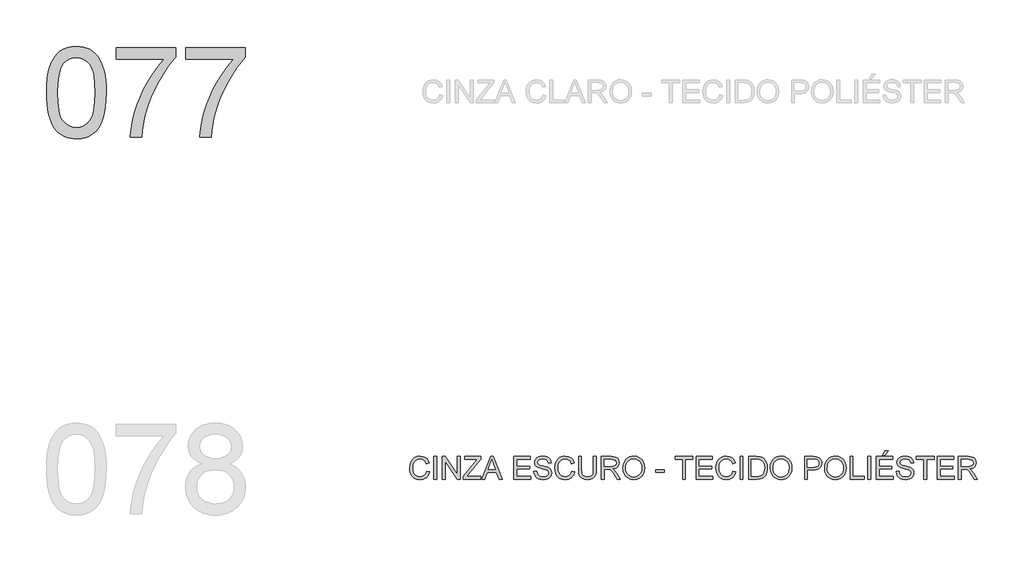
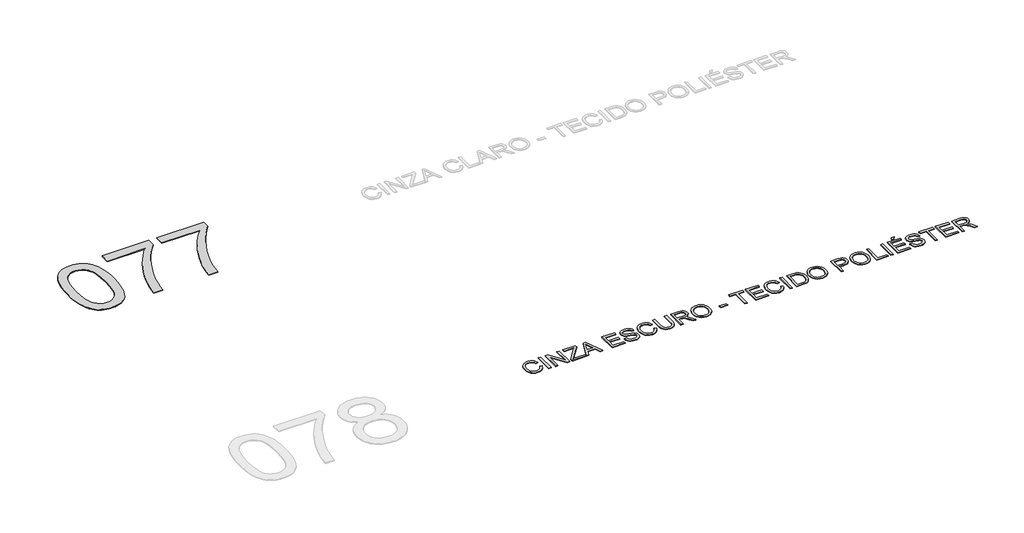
# One storey, part 5 of 67: 2 proxies.
"""IFC4 building model written with IfcOpenShell, lengths in millimetres."""

from ifc_helpers import new_model, si_unit, origin, origin_with_axes, place, context, project, spatial, polyline, outline, extrude, element, save

model = new_model("IFC4")

# Units and contexts
model_context = context("Model", 3, world=origin())
ifc_project = project(units=[si_unit("LENGTHUNIT", "METRE", prefix="MILLI")], contexts=[model_context])

# Site, building, storey
site = spatial("IfcSite", under=ifc_project)
building = spatial("IfcBuilding", under=site)
storey = spatial("IfcBuildingStorey", under=building, Name="Marelli - Linha COLAB - Planta Baixa", Elevation=0.0)

# Proxies
placement = place(None, origin())
element("IfcBuildingElementProxy", 1, Name="1200mm Arial", ObjectType="1200mm Arial", at=placement, inside=storey, context=model_context, shape_type="SweptSolid", body=[
    extrude(outline(polyline([(-25181.1313792, -99895.792664), (-25178.3630672, -99794.4319773), (-25170.0581311, -99702.8385576), (-25156.2165711, -99621.0124048), (-25136.838387, -99548.953519), (-25112.0063523, -99486.073289), (-25081.8032405, -99431.7831035), (-25046.2290516, -99386.0829627), (-25005.2837855, -99348.9728664), (-24958.8294866, -99320.2596767), (-24906.728199, -99299.7502555), (-24848.9799228, -99287.4446027), (-24785.584658, -99283.3427185), (-24737.9439396, -99285.7707396), (-24692.7312424, -99293.0548031), (-24649.9465664, -99305.194909), (-24609.5899115, -99322.1910572), (-24572.6361651, -99343.7581391), (-24540.0602144, -99369.6110463), (-24511.8620595, -99399.7497788), (-24488.0417003, -99434.1743365), (-24467.4035204, -99472.7467637), (-24448.7519032, -99515.3291046), (-24417.4083572, -99612.5235278), (-24405.4337983, -99669.6831928), (-24396.8805419, -99735.9479371), (-24391.7485881, -99811.3177609), (-24390.0379368, -99895.792664), (-24392.7786576, -99996.5095573), (-24401.0008202, -100087.6431245), (-24414.7044246, -100169.1933658), (-24433.8894706, -100241.1602811), (-24458.5283672, -100304.0681023), (-24488.5935233, -100358.4410612), (-24524.0849388, -100404.2791578), (-24565.0026137, -100441.5823921), (-24611.5120949, -100470.4887199), (-24663.7789294, -100491.1360968), (-24721.8031171, -100503.524523), (-24785.584658, -100507.6539984), (-24828.2589694, -100505.8605737), (-24868.5788361, -100500.4802995), (-24906.544258, -100491.5131759), (-24942.1552351, -100478.9592028), (-24975.4117675, -100462.8183803), (-25006.3138551, -100443.0907083), (-25034.8614979, -100419.7761868), (-25061.054696, -100392.8748159), (-25089.1976686, -100350.2786794), (-25113.5882449, -100302.0999336), (-25134.2264248, -100248.3385785), (-25151.1122084, -100188.9946142), (-25164.2455956, -100124.0680406), (-25173.6265865, -100053.5588577), (-25179.255181, -99977.4670655), (-25181.1313792, -99895.792664)]), holes=[polyline([(-25030.446914, -99895.4983584), (-25026.03233, -100026.4919399), (-25012.7885782, -100132.5247279), (-25002.8557643, -100176.1808245), (-24990.7156585, -100213.5967226), (-24976.3682607, -100244.7724225), (-24959.8135709, -100269.7079239), (-24922.4367602, -100307.884878), (-24880.9396711, -100335.1541309), (-24835.3223037, -100351.5156826), (-24785.584658, -100356.9695332), (-24735.8470122, -100351.4972885), (-24690.2296448, -100335.0805545), (-24648.7325558, -100307.7193311), (-24611.3557451, -100269.4136183), (-24594.8010553, -100244.418336), (-24580.4536575, -100213.2104465), (-24568.3135516, -100175.7899498), (-24558.3807378, -100132.1568459), (-24545.1369859, -100026.2528166), (-24540.722402, -99895.4983584), (-24544.9898331, -99767.9720648), (-24557.7921266, -99663.8062779), (-24567.3938467, -99620.4835744), (-24579.1292823, -99583.0009976), (-24592.9984335, -99551.3585475), (-24609.0013003, -99525.5562241), (-24645.7527116, -99485.5122689), (-24687.7280473, -99456.9094438), (-24734.9273073, -99439.7477487), (-24787.3504916, -99434.0271837), (-24836.8306199, -99439.067167), (-24881.6754351, -99454.187117), (-24921.8849372, -99479.3870337), (-24957.4591261, -99514.666917), (-24974.5656389, -99543.2145599), (-24989.3912833, -99577.2068562), (-25001.9360594, -99616.6438061), (-25012.199967, -99661.5254095), (-25025.8851772, -99767.6225769), (-25030.446914, -99895.4983584)])]), origin_with_axes(), (0.0, 0.0, 1.0), 10.0),
    extrude(outline(polyline([(-24258.1890297, -99452.8627418), (-24258.1890297, -99302.1782766), (-23467.0955873, -99302.1782766), (-23467.0955873, -99424.0207934), (-23523.6114588, -99490.5246611), (-23579.8514188, -99566.7222194), (-23635.8154673, -99652.6134682), (-23691.5036043, -99748.1984076), (-23743.8991975, -99849.3383651), (-23789.9856144, -99951.8946683), (-23829.7628552, -100055.8673172), (-23863.2309197, -100161.2563118), (-23883.1701238, -100237.7941609), (-23899.1362024, -100317.9004653), (-23911.1291555, -100401.5752251), (-23919.1489829, -100488.8184403), (-24069.8334482, -100488.8184403), (-24065.0969675, -100414.8189769), (-24053.5362758, -100333.4986619), (-24035.1513731, -100244.8574952), (-24009.9422594, -100148.8954767), (-23978.2032402, -100050.1651463), (-23940.2286213, -99953.2190435), (-23896.0184025, -99858.0571684), (-23845.5725839, -99764.679521), (-23791.1628368, -99675.8268221), (-23735.0608326, -99594.2397926), (-23677.2665711, -99519.9184325), (-23617.7800525, -99452.8627418), (-24258.1890297, -99452.8627418)])), origin_with_axes(), (0.0, 0.0, 1.0), 10.0),
    extrude(outline(polyline([(-23335.2466802, -99452.8627418), (-23335.2466802, -99302.1782766), (-22544.1532378, -99302.1782766), (-22544.1532378, -99424.0207934), (-22600.6691093, -99490.5246611), (-22656.9090693, -99566.7222194), (-22712.8731178, -99652.6134682), (-22768.5612548, -99748.1984076), (-22820.956848, -99849.3383651), (-22867.0432649, -99951.8946683), (-22906.8205057, -100055.8673172), (-22940.2885702, -100161.2563118), (-22960.2277743, -100237.7941609), (-22976.1938529, -100317.9004653), (-22988.186806, -100401.5752251), (-22996.2066334, -100488.8184403), (-23146.8910987, -100488.8184403), (-23142.154618, -100414.8189769), (-23130.5939263, -100333.4986619), (-23112.2090236, -100244.8574952), (-23086.9999099, -100148.8954767), (-23055.2608907, -100050.1651463), (-23017.2862718, -99953.2190435), (-22973.076053, -99858.0571684), (-22922.6302344, -99764.679521), (-22868.2204873, -99675.8268221), (-22812.1184831, -99594.2397926), (-22754.3242216, -99519.9184325), (-22694.837703, -99452.8627418), (-23335.2466802, -99452.8627418)])), origin_with_axes(), (0.0, 0.0, 1.0), 10.0),
])
element("IfcBuildingElementProxy", 2, Name="300mm Arial", ObjectType="300mm Arial", at=placement, inside=storey, context=model_context, shape_type="SweptSolid", body=[
    extrude(outline(polyline([(-20136.8172734, -104923.4390831), (-20099.1461571, -104933.1511677), (-20106.600366, -104956.5783531), (-20116.5285814, -104977.0486868), (-20128.9308031, -104994.5621691), (-20143.8070313, -105009.1187997), (-20160.8215736, -105020.5622291), (-20179.6387376, -105028.7361071), (-20200.2585235, -105033.640434), (-20222.6809311, -105035.2752096), (-20266.3761151, -105030.3271968), (-20301.0765843, -105015.4831583), (-20327.6744525, -104991.2581289), (-20347.0618337, -104958.1671434), (-20358.8984368, -104919.2636224), (-20362.8439712, -104877.6009865), (-20358.3834021, -104833.6574821), (-20345.0016945, -104795.7104543), (-20323.3978243, -104764.9647166), (-20294.2707673, -104742.6250824), (-20259.726648, -104729.0226457), (-20221.8715907, -104724.4885001), (-20180.5676397, -104730.3562179), (-20162.5989035, -104737.6908652), (-20146.4189935, -104747.9593714), (-20132.2946241, -104760.8904235), (-20120.4925099, -104776.2127086), (-20103.8550466, -104814.0309777), (-20141.5261629, -104823.0072984), (-20154.5859738, -104795.5357104), (-20172.4282505, -104776.6909552), (-20195.2737224, -104765.7924511), (-20223.3431187, -104762.1596164), (-20255.6983401, -104766.1879242), (-20282.2778143, -104778.2728478), (-20302.4469447, -104797.1451941), (-20315.5711349, -104821.5357704), (-20322.7724249, -104849.1085259), (-20325.1728549, -104877.5274101), (-20322.3309665, -104912.3290468), (-20313.8053013, -104942.421794), (-20299.2739625, -104966.6560205), (-20278.4150534, -104983.8820949), (-20253.4082747, -104994.1735937), (-20226.4333274, -104997.6040933), (-20194.9886139, -104992.931992), (-20168.7862188, -104978.9156879), (-20149.0033645, -104955.702334), (-20136.8172734, -104923.4390831)])), origin_with_axes(), (0.0, 0.0, 1.0), 10.0),
    extrude(outline(polyline([(-20042.6394826, -105030.5663201), (-20042.6394826, -104729.1973896), (-20004.9683663, -104729.1973896), (-20004.9683663, -105030.5663201), (-20042.6394826, -105030.5663201)])), origin_with_axes(), (0.0, 0.0, 1.0), 10.0),
    extrude(outline(polyline([(-19929.6261337, -105030.5663201), (-19929.6261337, -104729.1973896), (-19889.3062671, -104729.1973896), (-19731.8527731, -104967.9528045), (-19731.8527731, -104729.1973896), (-19694.1816568, -104729.1973896), (-19694.1816568, -105030.5663201), (-19734.5015235, -105030.5663201), (-19891.9550174, -104791.7373288), (-19891.9550174, -105030.5663201), (-19929.6261337, -105030.5663201)])), origin_with_axes(), (0.0, 0.0, 1.0), 10.0),
    extrude(outline(polyline([(-19651.801651, -105030.5663201), (-19651.801651, -104991.4972522), (-19497.659095, -104802.7737887), (-19468.3756882, -104766.8685059), (-19632.9660928, -104766.8685059), (-19632.9660928, -104729.1973896), (-19421.0660636, -104729.1973896), (-19421.0660636, -104766.8685059), (-19589.7767466, -104973.397458), (-19605.6692488, -104992.8952038), (-19416.3571741, -104992.8952038), (-19416.3571741, -105030.5663201), (-19651.801651, -105030.5663201)])), origin_with_axes(), (0.0, 0.0, 1.0), 10.0),
    extrude(outline(polyline([(-19409.0731105, -105030.5663201), (-19288.7756981, -104729.1973896), (-19256.6963881, -104729.1973896), (-19136.3989757, -105030.5663201), (-19176.2038076, -105030.5663201), (-19210.7111388, -104936.3885293), (-19334.8345239, -104936.3885293), (-19369.2682787, -105030.5663201), (-19409.0731105, -105030.5663201)]), holes=[polyline([(-19321.0021609, -104898.717413), (-19224.4699254, -104898.717413), (-19251.6196166, -104824.6259792), (-19272.7360431, -104766.8685059), (-19291.4980249, -104818.1512561), (-19321.0021609, -104898.717413)])]), origin_with_axes(), (0.0, 0.0, 1.0), 10.0),
    extrude(outline(polyline([(-18978.430447, -105030.5663201), (-18978.430447, -104729.1973896), (-18761.8215282, -104729.1973896), (-18761.8215282, -104766.8685059), (-18940.7593307, -104766.8685059), (-18940.7593307, -104856.3374072), (-18771.2393073, -104856.3374072), (-18771.2393073, -104894.0085235), (-18940.7593307, -104894.0085235), (-18940.7593307, -104992.8952038), (-18757.1126387, -104992.8952038), (-18757.1126387, -105030.5663201), (-18978.430447, -105030.5663201)])), origin_with_axes(), (0.0, 0.0, 1.0), 10.0),
    extrude(outline(polyline([(-18714.7326329, -104926.9707502), (-18677.0615165, -104926.9707502), (-18672.7389031, -104947.8756446), (-18664.9214107, -104964.6786547), (-18652.7261226, -104978.0143771), (-18635.2701219, -104988.517408), (-18613.9329662, -104995.332422), (-18590.0942129, -104997.6040933), (-18569.1065451, -104995.884245), (-18550.7308394, -104990.7247), (-18535.8408156, -104982.5577197), (-18525.3101935, -104971.8155654), (-18519.0470026, -104959.4823215), (-18516.9592722, -104946.5420724), (-18518.5227707, -104933.932917), (-18523.2132662, -104923.0344129), (-18532.7414098, -104913.7361954), (-18548.817853, -104905.9279001), (-18603.6690585, -104891.5437141), (-18639.6755088, -104882.0247675), (-18662.7141187, -104872.9656733), (-18681.4669034, -104860.2921386), (-18694.7566405, -104844.9330653), (-18702.6753005, -104827.2195472), (-18705.3148538, -104807.4826782), (-18702.0499011, -104785.4189555), (-18692.2550429, -104764.845155), (-18676.1877968, -104747.4075484), (-18654.10568, -104734.7524077), (-18627.5997823, -104727.054477), (-18598.2611932, -104724.4885001), (-18566.4761888, -104727.1740386), (-18538.66431, -104735.2306543), (-18515.8188381, -104748.4928003), (-18498.9330545, -104766.7949295), (-18488.2460825, -104788.9966079), (-18483.9970455, -104813.9574013), (-18521.6681618, -104813.9574013), (-18528.5843433, -104791.4798114), (-18543.0053175, -104775.2562154), (-18565.5380897, -104765.4337661), (-18596.7896652, -104762.1596164), (-18628.7770047, -104765.3969779), (-18650.7211657, -104775.1090626), (-18663.4130945, -104789.4012781), (-18667.6437375, -104806.3790322), (-18664.6454992, -104820.8551887), (-18655.6507844, -104832.4986539), (-18634.3872051, -104842.9097143), (-18594.1409148, -104853.541504), (-18552.6070376, -104863.6398648), (-18527.4806973, -104872.4506385), (-18506.0055858, -104886.1174547), (-18491.0235916, -104902.9848441), (-18482.2220149, -104922.868866), (-18479.2881559, -104945.5855792), (-18482.6634732, -104968.8081301), (-18492.7894252, -104990.6511236), (-18509.2521444, -105009.4498935), (-18531.6377639, -105023.539774), (-18558.5575289, -105032.3413507), (-18588.6226849, -105035.2752096), (-18625.5304461, -105032.1114244), (-18655.9083018, -105022.620069), (-18680.1057401, -105006.764355), (-18698.4722487, -104984.5074943), (-18710.2628666, -104957.3945912), (-18714.7326329, -104926.9707502)])), origin_with_axes(), (0.0, 0.0, 1.0), 10.0),
    extrude(outline(polyline([(-18210.8814523, -104923.4390831), (-18173.210336, -104933.1511677), (-18180.6645449, -104956.5783531), (-18190.5927602, -104977.0486868), (-18202.994982, -104994.5621691), (-18217.8712102, -105009.1187997), (-18234.8857524, -105020.5622291), (-18253.7029165, -105028.7361071), (-18274.3227023, -105033.640434), (-18296.7451099, -105035.2752096), (-18340.4402939, -105030.3271968), (-18375.1407631, -105015.4831583), (-18401.7386314, -104991.2581289), (-18421.1260125, -104958.1671434), (-18432.9626157, -104919.2636224), (-18436.9081501, -104877.6009865), (-18432.4475809, -104833.6574821), (-18419.0658733, -104795.7104543), (-18397.4620032, -104764.9647166), (-18368.3349462, -104742.6250824), (-18333.7908268, -104729.0226457), (-18295.9357695, -104724.4885001), (-18254.6318185, -104730.3562179), (-18236.6630823, -104737.6908652), (-18220.4831723, -104747.9593714), (-18206.358803, -104760.8904235), (-18194.5566887, -104776.2127086), (-18177.9192255, -104814.0309777), (-18215.5903418, -104823.0072984), (-18228.6501526, -104795.5357104), (-18246.4924294, -104776.6909552), (-18269.3379013, -104765.7924511), (-18297.4072975, -104762.1596164), (-18329.762519, -104766.1879242), (-18356.3419932, -104778.2728478), (-18376.5111235, -104797.1451941), (-18389.6353137, -104821.5357704), (-18396.8366038, -104849.1085259), (-18399.2370338, -104877.5274101), (-18396.3951454, -104912.3290468), (-18387.8694801, -104942.421794), (-18373.3381413, -104966.6560205), (-18352.4792322, -104983.8820949), (-18327.4724536, -104994.1735937), (-18300.4975063, -104997.6040933), (-18269.0527927, -104992.931992), (-18242.8503976, -104978.9156879), (-18223.0675433, -104955.702334), (-18210.8814523, -104923.4390831)])), origin_with_axes(), (0.0, 0.0, 1.0), 10.0),
    extrude(outline(polyline([(-17923.6391904, -104729.1973896), (-17885.9680741, -104729.1973896), (-17885.9680741, -104903.0584205), (-17888.524854, -104943.7737604), (-17896.1951936, -104975.1265034), (-17910.5241973, -104999.3147446), (-17933.0569695, -105018.5365788), (-17963.8486925, -105031.0905519), (-18002.9545486, -105035.2752096), (-18041.205079, -105031.6331779), (-18071.7852699, -105020.7070826), (-18094.7043182, -105002.8740029), (-18109.971421, -104978.5110178), (-18118.5522685, -104945.8338995), (-18121.412551, -104903.0584205), (-18121.412551, -104729.1973896), (-18083.7414347, -104729.1973896), (-18083.7414347, -104901.7340454), (-18081.8836306, -104935.588386), (-18076.3102184, -104959.1604248), (-18066.2118577, -104975.4851883), (-18050.779208, -104987.597703), (-18030.6560628, -104995.1024957), (-18006.4862157, -104997.6040933), (-17968.1713059, -104992.6560805), (-17953.8285067, -104986.4710644), (-17942.6954778, -104977.812042), (-17934.3583521, -104965.6351479), (-17928.4032623, -104948.8965171), (-17923.6391904, -104901.7340454), (-17923.6391904, -104729.1973896)])), origin_with_axes(), (0.0, 0.0, 1.0), 10.0),
    extrude(outline(polyline([(-17820.0436206, -105030.5663201), (-17820.0436206, -104729.1973896), (-17690.1812763, -104729.1973896), (-17655.278472, -104731.2299376), (-17629.8854173, -104737.3275817), (-17611.3257706, -104748.5847708), (-17596.9231905, -104766.0959537), (-17587.6801554, -104787.8101885), (-17584.5991437, -104811.6765329), (-17589.7035064, -104841.3646099), (-17605.0165944, -104865.9759154), (-17616.6163736, -104876.0052983), (-17630.9982603, -104884.0205273), (-17668.1083566, -104894.0085235), (-17646.6976245, -104910.1217548), (-17616.1634189, -104948.8965171), (-17565.9107383, -105030.5663201), (-17609.6886957, -105030.5663201), (-17648.9049164, -104968.0999573), (-17677.2318301, -104926.750021), (-17697.134246, -104907.2154871), (-17715.0500992, -104900.0417882), (-17736.9022897, -104898.717413), (-17782.3725043, -104898.717413), (-17782.3725043, -105030.5663201), (-17820.0436206, -105030.5663201)]), holes=[polyline([(-17782.3725043, -104861.0462967), (-17698.053951, -104861.0462967), (-17673.8381186, -104859.7127245), (-17655.0485457, -104855.7120078), (-17640.903483, -104848.7774322), (-17630.6211813, -104838.6422832), (-17624.3579903, -104826.3826157), (-17622.27026, -104813.0744845), (-17626.2525826, -104794.6987789), (-17638.1995504, -104779.8915286), (-17658.7549568, -104770.1242616), (-17688.5625955, -104766.8685059), (-17782.3725043, -104766.8685059), (-17782.3725043, -104861.0462967)])]), origin_with_axes(), (0.0, 0.0, 1.0), 10.0),
    extrude(outline(polyline([(-17532.8013587, -104883.8549804), (-17530.2905641, -104848.5061192), (-17522.7581803, -104817.213157), (-17510.2042072, -104789.9760937), (-17492.6286449, -104766.7949295), (-17471.0845555, -104748.2858666), (-17446.6250014, -104735.0651074), (-17419.2499824, -104727.1326519), (-17388.9594986, -104724.4885001), (-17349.4305783, -104729.454907), (-17313.985148, -104744.3541278), (-17284.5545884, -104768.1376988), (-17263.0702799, -104799.7571563), (-17249.9368927, -104837.68579), (-17245.5590969, -104880.3968896), (-17250.1668189, -104923.6782064), (-17263.9899849, -104962.140269), (-17286.2652397, -104993.8149087), (-17316.2292282, -105016.733957), (-17351.3711558, -105030.6398965), (-17389.1802278, -105035.2752096), (-17429.3161535, -105030.1524528), (-17464.9639188, -105014.7841825), (-17494.3209021, -104990.5591531), (-17515.5844814, -104958.8661192), (-17528.4971394, -104922.3998164), (-17532.8013587, -104883.8549804)]), holes=[polyline([(-17495.1302424, -104884.2228624), (-17493.2471465, -104909.1974513), (-17487.5978586, -104931.3669401), (-17478.1823788, -104950.7313286), (-17465.000707, -104967.2906169), (-17448.9771469, -104980.5527628), (-17431.0360018, -104990.0257242), (-17411.1772719, -104995.709501), (-17389.400957, -104997.6040933), (-17367.2521617, -104995.6911069), (-17347.1589069, -104989.9521478), (-17329.1211929, -104980.3872159), (-17313.1390194, -104966.9963113), (-17300.0539167, -104950.0875351), (-17290.7074148, -104929.9689885), (-17285.0995136, -104906.6406715), (-17283.2302132, -104880.102584), (-17286.4307866, -104846.7540812), (-17296.0325067, -104817.9305269), (-17311.7870531, -104794.358488), (-17333.4461056, -104776.7645316), (-17359.5749243, -104765.8108452), (-17388.7387694, -104762.1596164), (-17409.7586269, -104763.9185522), (-17429.2609712, -104769.1953595), (-17447.2458022, -104777.9900385), (-17463.7131201, -104790.302589), (-17477.4581111, -104806.7262208), (-17487.2759618, -104827.8541437), (-17493.1666723, -104853.6863575), (-17495.1302424, -104884.2228624)])]), origin_with_axes(), (0.0, 0.0, 1.0), 10.0),
    extrude(outline(polyline([(-17099.5835212, -104941.0974188), (-17099.5835212, -104903.4263025), (-16981.8612828, -104903.4263025), (-16981.8612828, -104941.0974188), (-17099.5835212, -104941.0974188)])), origin_with_axes(), (0.0, 0.0, 1.0), 10.0),
    extrude(outline(polyline([(-16741.7079163, -105030.5663201), (-16741.7079163, -104766.8685059), (-16840.5945966, -104766.8685059), (-16840.5945966, -104729.1973896), (-16605.1501197, -104729.1973896), (-16605.1501197, -104766.8685059), (-16704.0368, -104766.8685059), (-16704.0368, -105030.5663201), (-16741.7079163, -105030.5663201)])), origin_with_axes(), (0.0, 0.0, 1.0), 10.0),
    extrude(outline(polyline([(-16562.7701139, -105030.5663201), (-16562.7701139, -104729.1973896), (-16346.1611951, -104729.1973896), (-16346.1611951, -104766.8685059), (-16525.0989976, -104766.8685059), (-16525.0989976, -104856.3374072), (-16355.5789742, -104856.3374072), (-16355.5789742, -104894.0085235), (-16525.0989976, -104894.0085235), (-16525.0989976, -104992.8952038), (-16341.4523056, -104992.8952038), (-16341.4523056, -105030.5663201), (-16562.7701139, -105030.5663201)])), origin_with_axes(), (0.0, 0.0, 1.0), 10.0),
    extrude(outline(polyline([(-16073.0456019, -104923.4390831), (-16035.3744856, -104933.1511677), (-16042.8286945, -104956.5783531), (-16052.7569099, -104977.0486868), (-16065.1591316, -104994.5621691), (-16080.0353598, -105009.1187997), (-16097.0499021, -105020.5622291), (-16115.8670661, -105028.7361071), (-16136.486852, -105033.640434), (-16158.9092596, -105035.2752096), (-16202.6044435, -105030.3271968), (-16237.3049127, -105015.4831583), (-16263.902781, -104991.2581289), (-16283.2901621, -104958.1671434), (-16295.1267653, -104919.2636224), (-16299.0722997, -104877.6009865), (-16294.6117305, -104833.6574821), (-16281.230023, -104795.7104543), (-16259.6261528, -104764.9647166), (-16230.4990958, -104742.6250824), (-16195.9549765, -104729.0226457), (-16158.0999192, -104724.4885001), (-16116.7959682, -104730.3562179), (-16098.827232, -104737.6908652), (-16082.647322, -104747.9593714), (-16068.5229526, -104760.8904235), (-16056.7208384, -104776.2127086), (-16040.0833751, -104814.0309777), (-16077.7544914, -104823.0072984), (-16090.8143023, -104795.5357104), (-16108.656579, -104776.6909552), (-16131.5020509, -104765.7924511), (-16159.5714472, -104762.1596164), (-16191.9266686, -104766.1879242), (-16218.5061428, -104778.2728478), (-16238.6752732, -104797.1451941), (-16251.7994633, -104821.5357704), (-16259.0007534, -104849.1085259), (-16261.4011834, -104877.5274101), (-16258.559295, -104912.3290468), (-16250.0336298, -104942.421794), (-16235.502291, -104966.6560205), (-16214.6433818, -104983.8820949), (-16189.6366032, -104994.1735937), (-16162.6616559, -104997.6040933), (-16131.2169424, -104992.931992), (-16105.0145473, -104978.9156879), (-16085.231693, -104955.702334), (-16073.0456019, -104923.4390831)])), origin_with_axes(), (0.0, 0.0, 1.0), 10.0),
    extrude(outline(polyline([(-15978.8678111, -105030.5663201), (-15978.8678111, -104729.1973896), (-15941.1966948, -104729.1973896), (-15941.1966948, -105030.5663201), (-15978.8678111, -105030.5663201)])), origin_with_axes(), (0.0, 0.0, 1.0), 10.0),
    extrude(outline(polyline([(-15865.8544622, -105030.5663201), (-15865.8544622, -104729.1973896), (-15761.8910104, -104729.1973896), (-15708.1066627, -104733.5383972), (-15684.0839684, -104741.9077126), (-15663.8136705, -104755.0962821), (-15642.9731554, -104778.0521186), (-15628.1291169, -104806.5997614), (-15619.2447667, -104840.1873876), (-15616.2833167, -104878.2631741), (-15618.2882735, -104910.6091985), (-15624.3031442, -104939.0740679), (-15633.4634059, -104963.3082943), (-15644.9045359, -104982.9623899), (-15658.0747113, -104998.477813), (-15672.4221091, -105010.2960221), (-15688.8940255, -105019.0608107), (-15708.4377565, -105025.4159721), (-15756.8878152, -105030.5663201), (-15865.8544622, -105030.5663201)]), holes=[polyline([(-15828.1833459, -104992.8952038), (-15761.5231284, -104992.8952038), (-15733.9503728, -104991.5340404), (-15713.0362814, -104987.4505502), (-15697.2541438, -104980.8838566), (-15685.0772498, -104972.0730828), (-15671.9898478, -104955.7667134), (-15662.1582015, -104934.6594839), (-15656.0053751, -104908.6594239), (-15653.954433, -104877.6745629), (-15657.9735438, -104836.6189322), (-15670.0308762, -104806.3054558), (-15687.8455618, -104785.4833349), (-15709.1367323, -104772.9017706), (-15730.8049818, -104768.3768221), (-15762.553198, -104766.8685059), (-15828.1833459, -104766.8685059), (-15828.1833459, -104992.8952038)])]), origin_with_axes(), (0.0, 0.0, 1.0), 10.0),
    extrude(outline(polyline([(-15578.6122004, -104883.8549804), (-15576.1014058, -104848.5061192), (-15568.5690219, -104817.213157), (-15556.0150488, -104789.9760937), (-15538.4394865, -104766.7949295), (-15516.8953972, -104748.2858666), (-15492.435843, -104735.0651074), (-15465.060824, -104727.1326519), (-15434.7703403, -104724.4885001), (-15395.2414199, -104729.454907), (-15359.7959896, -104744.3541278), (-15330.36543, -104768.1376988), (-15308.8811215, -104799.7571563), (-15295.7477343, -104837.68579), (-15291.3699385, -104880.3968896), (-15295.9776605, -104923.6782064), (-15309.8008265, -104962.140269), (-15332.0760813, -104993.8149087), (-15362.0400698, -105016.733957), (-15397.1819974, -105030.6398965), (-15434.9910695, -105035.2752096), (-15475.1269951, -105030.1524528), (-15510.7747605, -105014.7841825), (-15540.1317437, -104990.5591531), (-15561.395323, -104958.8661192), (-15574.307981, -104922.3998164), (-15578.6122004, -104883.8549804)]), holes=[polyline([(-15540.9410841, -104884.2228624), (-15539.0579881, -104909.1974513), (-15533.4087002, -104931.3669401), (-15523.9932204, -104950.7313286), (-15510.8115487, -104967.2906169), (-15494.7879885, -104980.5527628), (-15476.8468435, -104990.0257242), (-15456.9881135, -104995.709501), (-15435.2117986, -104997.6040933), (-15413.0630033, -104995.6911069), (-15392.9697486, -104989.9521478), (-15374.9320345, -104980.3872159), (-15358.949861, -104966.9963113), (-15345.8647583, -104950.0875351), (-15336.5182564, -104929.9689885), (-15330.9103552, -104906.6406715), (-15329.0410548, -104880.102584), (-15332.2416282, -104846.7540812), (-15341.8433483, -104817.9305269), (-15357.5978947, -104794.358488), (-15379.2569472, -104776.7645316), (-15405.3857659, -104765.8108452), (-15434.5496111, -104762.1596164), (-15455.5694686, -104763.9185522), (-15475.0718128, -104769.1953595), (-15493.0566439, -104777.9900385), (-15509.5239617, -104790.302589), (-15523.2689527, -104806.7262208), (-15533.0868035, -104827.8541437), (-15538.9775139, -104853.6863575), (-15540.9410841, -104884.2228624)])]), origin_with_axes(), (0.0, 0.0, 1.0), 10.0),
    extrude(outline(polyline([(-15121.8499152, -105030.5663201), (-15121.8499152, -104729.1973896), (-15010.1609414, -104729.1973896), (-14965.1321852, -104732.0668692), (-14945.0550253, -104737.4287493), (-14928.5279267, -104746.1567496), (-14915.2197955, -104758.6463433), (-14904.799538, -104775.2930036), (-14898.0672975, -104794.9287051), (-14895.8232173, -104816.3854225), (-14897.3384313, -104834.8852883), (-14901.8840732, -104851.9044291), (-14909.460143, -104867.4428449), (-14920.0666408, -104881.5005356), (-14934.62787, -104893.1531978), (-14954.0681342, -104901.476528), (-14978.3874334, -104906.470526), (-15007.5857675, -104908.1351921), (-15084.1787989, -104908.1351921), (-15084.1787989, -105030.5663201), (-15121.8499152, -105030.5663201)]), holes=[polyline([(-15084.1787989, -104870.4640758), (-15005.3784755, -104870.4640758), (-14971.9747903, -104867.005985), (-14949.9018706, -104856.6317127), (-14937.5962179, -104839.9850525), (-14933.4943336, -104817.7097977), (-14935.9131577, -104800.7872259), (-14943.1696301, -104786.5134045), (-14954.3624398, -104775.7712502), (-14968.590276, -104769.4436799), (-15006.2613923, -104766.8685059), (-15084.1787989, -104766.8685059), (-15084.1787989, -104870.4640758)])]), origin_with_axes(), (0.0, 0.0, 1.0), 10.0),
    extrude(outline(polyline([(-14858.152101, -104883.8549804), (-14855.6413064, -104848.5061192), (-14848.1089225, -104817.213157), (-14835.5549495, -104789.9760937), (-14817.9793871, -104766.7949295), (-14796.4352978, -104748.2858666), (-14771.9757436, -104735.0651074), (-14744.6007247, -104727.1326519), (-14714.3102409, -104724.4885001), (-14674.7813205, -104729.454907), (-14639.3358903, -104744.3541278), (-14609.9053307, -104768.1376988), (-14588.4210222, -104799.7571563), (-14575.2876349, -104837.68579), (-14570.9098392, -104880.3968896), (-14575.5175612, -104923.6782064), (-14589.3407271, -104962.140269), (-14611.6159819, -104993.8149087), (-14641.5799705, -105016.733957), (-14676.721898, -105030.6398965), (-14714.5309701, -105035.2752096), (-14754.6668958, -105030.1524528), (-14790.3146611, -105014.7841825), (-14819.6716443, -104990.5591531), (-14840.9352236, -104958.8661192), (-14853.8478817, -104922.3998164), (-14858.152101, -104883.8549804)]), holes=[polyline([(-14820.4809847, -104884.2228624), (-14818.5978887, -104909.1974513), (-14812.9486009, -104931.3669401), (-14803.533121, -104950.7313286), (-14790.3514493, -104967.2906169), (-14774.3278892, -104980.5527628), (-14756.3867441, -104990.0257242), (-14736.5280141, -104995.709501), (-14714.7516993, -104997.6040933), (-14692.6029039, -104995.6911069), (-14672.5096492, -104989.9521478), (-14654.4719351, -104980.3872159), (-14638.4897617, -104966.9963113), (-14625.404659, -104950.0875351), (-14616.058157, -104929.9689885), (-14610.4502559, -104906.6406715), (-14608.5809555, -104880.102584), (-14611.7815288, -104846.7540812), (-14621.3832489, -104817.9305269), (-14637.1377954, -104794.358488), (-14658.7968478, -104776.7645316), (-14684.9256665, -104765.8108452), (-14714.0895117, -104762.1596164), (-14735.1093692, -104763.9185522), (-14754.6117135, -104769.1953595), (-14772.5965445, -104777.9900385), (-14789.0638623, -104790.302589), (-14802.8088534, -104806.7262208), (-14812.6267041, -104827.8541437), (-14818.5174146, -104853.6863575), (-14820.4809847, -104884.2228624)])]), origin_with_axes(), (0.0, 0.0, 1.0), 10.0),
    extrude(outline(polyline([(-14519.1120543, -105030.5663201), (-14519.1120543, -104729.1973896), (-14481.440938, -104729.1973896), (-14481.440938, -104992.8952038), (-14330.7564727, -104992.8952038), (-14330.7564727, -105030.5663201), (-14519.1120543, -105030.5663201)])), origin_with_axes(), (0.0, 0.0, 1.0), 10.0),
    extrude(outline(polyline([(-14283.6675773, -105030.5663201), (-14283.6675773, -104729.1973896), (-14245.996461, -104729.1973896), (-14245.996461, -105030.5663201), (-14283.6675773, -105030.5663201)])), origin_with_axes(), (0.0, 0.0, 1.0), 10.0),
    extrude(outline(polyline([(-14170.6542284, -105030.5663201), (-14170.6542284, -104729.1973896), (-13954.0453097, -104729.1973896), (-13954.0453097, -104766.8685059), (-14132.9831121, -104766.8685059), (-14132.9831121, -104856.3374072), (-13963.4630887, -104856.3374072), (-13963.4630887, -104894.0085235), (-14132.9831121, -104894.0085235), (-14132.9831121, -104992.8952038), (-13949.3364201, -104992.8952038), (-13949.3364201, -105030.5663201), (-14170.6542284, -105030.5663201)])), origin_with_axes(), (0.0, 0.0, 1.0), 10.0),
    extrude(outline(polyline([(-14085.8942167, -104710.3618315), (-14057.6408795, -104653.855157), (-14010.5519841, -104653.855157), (-14057.6408795, -104710.3618315), (-14085.8942167, -104710.3618315)])), origin_with_axes(), (0.0, 0.0, 1.0), 10.0),
    extrude(outline(polyline([(-13906.9564143, -104926.9707502), (-13869.285298, -104926.9707502), (-13864.9626845, -104947.8756446), (-13857.1451921, -104964.6786547), (-13844.949904, -104978.0143771), (-13827.4939033, -104988.517408), (-13806.1567476, -104995.332422), (-13782.3179943, -104997.6040933), (-13761.3303265, -104995.884245), (-13742.9546208, -104990.7247), (-13728.0645971, -104982.5577197), (-13717.533975, -104971.8155654), (-13711.270784, -104959.4823215), (-13709.1830537, -104946.5420724), (-13710.7465522, -104933.932917), (-13715.4370476, -104923.0344129), (-13724.9651913, -104913.7361954), (-13741.0416345, -104905.9279001), (-13795.8928399, -104891.5437141), (-13831.8992902, -104882.0247675), (-13854.9379002, -104872.9656733), (-13873.6906849, -104860.2921386), (-13886.9804219, -104844.9330653), (-13894.8990819, -104827.2195472), (-13897.5386352, -104807.4826782), (-13894.2736825, -104785.4189555), (-13884.4788244, -104764.845155), (-13868.4115782, -104747.4075484), (-13846.3294615, -104734.7524077), (-13819.8235637, -104727.054477), (-13790.4849746, -104724.4885001), (-13758.6999702, -104727.1740386), (-13730.8880914, -104735.2306543), (-13708.0426195, -104748.4928003), (-13691.1568359, -104766.7949295), (-13680.469864, -104788.9966079), (-13676.2208269, -104813.9574013), (-13713.8919432, -104813.9574013), (-13720.8081247, -104791.4798114), (-13735.2290989, -104775.2562154), (-13757.7618711, -104765.4337661), (-13789.0134466, -104762.1596164), (-13821.0007861, -104765.3969779), (-13842.9449471, -104775.1090626), (-13855.636876, -104789.4012781), (-13859.8675189, -104806.3790322), (-13856.8692806, -104820.8551887), (-13847.8745659, -104832.4986539), (-13826.6109865, -104842.9097143), (-13786.3646963, -104853.541504), (-13744.830819, -104863.6398648), (-13719.7044787, -104872.4506385), (-13698.2293673, -104886.1174547), (-13683.247373, -104902.9848441), (-13674.4457963, -104922.868866), (-13671.5119374, -104945.5855792), (-13674.8872547, -104968.8081301), (-13685.0132066, -104990.6511236), (-13701.4759259, -105009.4498935), (-13723.8615453, -105023.539774), (-13750.7813103, -105032.3413507), (-13780.8464663, -105035.2752096), (-13817.7542275, -105032.1114244), (-13848.1320833, -105022.620069), (-13872.3295215, -105006.764355), (-13890.6960301, -104984.5074943), (-13902.486648, -104957.3945912), (-13906.9564143, -104926.9707502)])), origin_with_axes(), (0.0, 0.0, 1.0), 10.0),
    extrude(outline(polyline([(-13539.6630303, -105030.5663201), (-13539.6630303, -104766.8685059), (-13638.5497106, -104766.8685059), (-13638.5497106, -104729.1973896), (-13403.1052337, -104729.1973896), (-13403.1052337, -104766.8685059), (-13501.991914, -104766.8685059), (-13501.991914, -105030.5663201), (-13539.6630303, -105030.5663201)])), origin_with_axes(), (0.0, 0.0, 1.0), 10.0),
    extrude(outline(polyline([(-13360.7252278, -105030.5663201), (-13360.7252278, -104729.1973896), (-13144.1163091, -104729.1973896), (-13144.1163091, -104766.8685059), (-13323.0541115, -104766.8685059), (-13323.0541115, -104856.3374072), (-13153.5340882, -104856.3374072), (-13153.5340882, -104894.0085235), (-13323.0541115, -104894.0085235), (-13323.0541115, -104992.8952038), (-13139.4074195, -104992.8952038), (-13139.4074195, -105030.5663201), (-13360.7252278, -105030.5663201)])), origin_with_axes(), (0.0, 0.0, 1.0), 10.0),
    extrude(outline(polyline([(-13082.9007451, -105030.5663201), (-13082.9007451, -104729.1973896), (-12953.0384008, -104729.1973896), (-12918.1355965, -104731.2299376), (-12892.7425418, -104737.3275817), (-12874.1828951, -104748.5847708), (-12859.780315, -104766.0959537), (-12850.5372799, -104787.8101885), (-12847.4562682, -104811.6765329), (-12852.5606309, -104841.3646099), (-12867.8737189, -104865.9759154), (-12879.4734981, -104876.0052983), (-12893.8553848, -104884.0205273), (-12930.9654811, -104894.0085235), (-12909.554749, -104910.1217548), (-12879.0205434, -104948.8965171), (-12828.7678628, -105030.5663201), (-12872.5458202, -105030.5663201), (-12911.7620409, -104968.0999573), (-12940.0889546, -104926.750021), (-12959.9913705, -104907.2154871), (-12977.9072237, -104900.0417882), (-12999.7594142, -104898.717413), (-13045.2296288, -104898.717413), (-13045.2296288, -105030.5663201), (-13082.9007451, -105030.5663201)]), holes=[polyline([(-13045.2296288, -104861.0462967), (-12960.9110755, -104861.0462967), (-12936.6952432, -104859.7127245), (-12917.9056703, -104855.7120078), (-12903.7606075, -104848.7774322), (-12893.4783058, -104838.6422832), (-12887.2151148, -104826.3826157), (-12885.1273845, -104813.0744845), (-12889.1097071, -104794.6987789), (-12901.0566749, -104779.8915286), (-12921.6120814, -104770.1242616), (-12951.41972, -104766.8685059), (-13045.2296288, -104766.8685059), (-13045.2296288, -104861.0462967)])]), origin_with_axes(), (0.0, 0.0, 1.0), 10.0),
])

save(model, "model.ifc")
